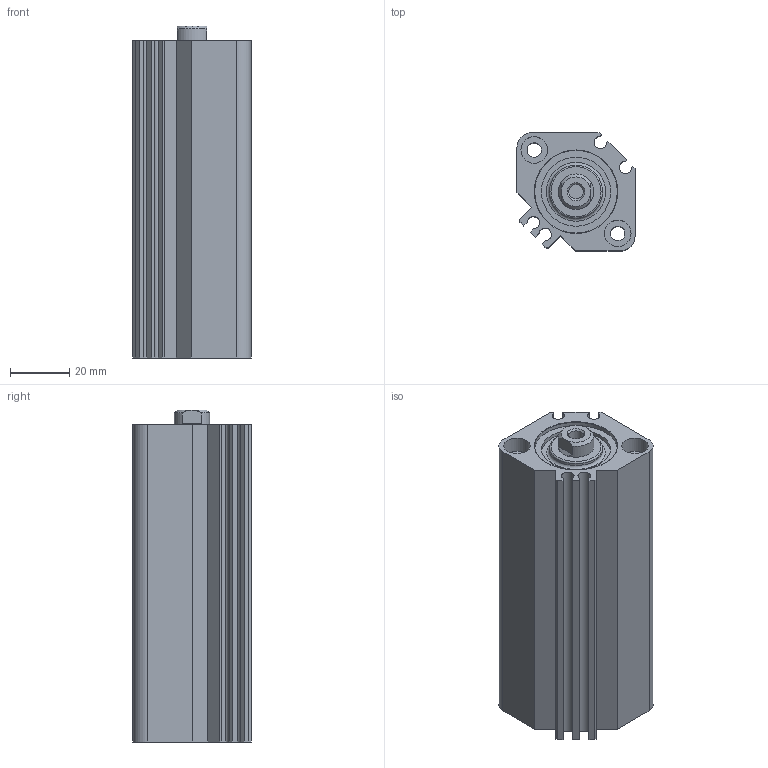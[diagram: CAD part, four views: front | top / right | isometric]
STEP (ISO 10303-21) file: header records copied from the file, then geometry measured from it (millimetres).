
FILE_DESCRIPTION( ( 'STEP AP214' ), '1' );
FILE_NAME( 'C:/Users/emc02044/Desktop/SQN SQN big size/SQN25X75-S.stp', '2026-07-29T01:28:11', ( 'License CC BY-ND 4.0' ), ( 'CADENAS' ), ' ', 'PARTsolutions', ' ' );
FILE_SCHEMA( ( 'AUTOMOTIVE_DESIGN { 1 0 10303 214 1 1 1 1 }' ) );
Length unit declared in the file: millimetre
Products named in the file (3): SQN25X75-S; _SQ25X75-S(0) ()_body; _SQ25X75-S(rod-0)
Assembly tree (2 placements, depth 2):
  SQN25X75-S
    _SQ25X75-S(0) ()_body
    _SQ25X75-S(rod-0)
Bounding box: 40 x 40 x 112.5 mm (x, y, z)
Volume: 108695.4 mm3; surface area: 40477 mm2
Topology: 2 solids, 2 shells, 90 faces, 193 edges, 125 vertices
Faces by surface type: plane 50, cylinder 28, cone 10, torus 2
Full cylindrical faces by diameter (mm): 4.134 x2, 4.917 x5, 5.5 x2, 9 x4, 12 x2, 18 x1, 23.4 x1, 25 x3, 28 x1
Entity records: 3073 total; most frequent: DIRECTION 413, CARTESIAN_POINT 408, ORIENTED_EDGE 320, AXIS2_PLACEMENT_3D 164, EDGE_CURVE 160, EDGE_LOOP 143, VERTEX_POINT 123, FACE_OUTER_BOUND 113
